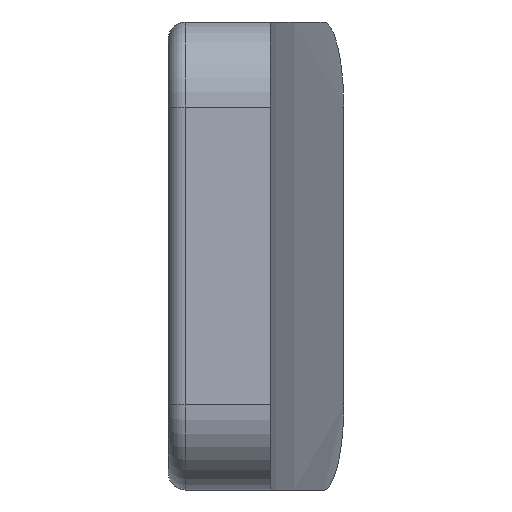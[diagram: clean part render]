
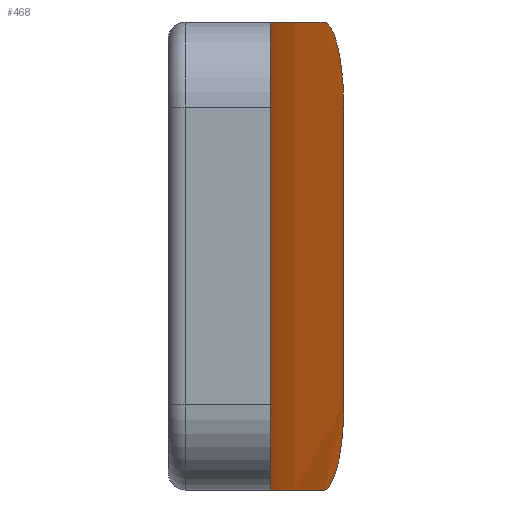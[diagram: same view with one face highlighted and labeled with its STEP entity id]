
A CAD part, front view. The second image highlights one B-rep face of the part: STEP entity #468.
In plain terms, the highlighted cylindrical face has radius 28.8 mm (diameter 57.6 mm), a partial arc.
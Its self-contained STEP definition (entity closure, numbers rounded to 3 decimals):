
#1=DIRECTION('',(0.,0.,-1.));
#2=VECTOR('',#1,3.5);
#3=CARTESIAN_POINT('',(-27.936,76.,-0.15));
#4=LINE('',#3,#2);
#57=CARTESIAN_POINT('',(-27.936,76.,-0.15));
#58=CARTESIAN_POINT('',(-27.936,76.,-0.104));
#59=CARTESIAN_POINT('',(-27.938,75.994,-0.011));
#60=CARTESIAN_POINT('',(-27.945,75.964,0.129));
#61=CARTESIAN_POINT('',(-27.957,75.915,0.262));
#62=CARTESIAN_POINT('',(-27.974,75.848,0.386));
#63=CARTESIAN_POINT('',(-27.994,75.763,0.501));
#64=CARTESIAN_POINT('',(-28.019,75.662,0.604));
#65=CARTESIAN_POINT('',(-28.046,75.547,0.691));
#66=CARTESIAN_POINT('',(-28.075,75.422,0.76));
#67=CARTESIAN_POINT('',(-28.105,75.286,0.812));
#68=CARTESIAN_POINT('',(-28.137,75.144,0.843));
#69=CARTESIAN_POINT('',(-28.158,75.048,0.85));
#70=CARTESIAN_POINT('',(-28.168,75.,0.85));
#80=CARTESIAN_POINT('',(-28.168,75.,-4.65));
#81=CARTESIAN_POINT('',(-28.158,75.048,-4.65));
#82=CARTESIAN_POINT('',(-28.137,75.144,-4.643));
#83=CARTESIAN_POINT('',(-28.105,75.286,-4.612));
#84=CARTESIAN_POINT('',(-28.075,75.422,-4.56));
#85=CARTESIAN_POINT('',(-28.046,75.547,-4.491));
#86=CARTESIAN_POINT('',(-28.019,75.662,-4.404));
#87=CARTESIAN_POINT('',(-27.994,75.763,-4.301));
#88=CARTESIAN_POINT('',(-27.974,75.848,-4.186));
#89=CARTESIAN_POINT('',(-27.957,75.915,-4.062));
#90=CARTESIAN_POINT('',(-27.945,75.964,-3.929));
#91=CARTESIAN_POINT('',(-27.938,75.994,-3.789));
#92=CARTESIAN_POINT('',(-27.936,76.,-3.696));
#93=CARTESIAN_POINT('',(-27.936,76.,-3.65));
#149=CARTESIAN_POINT('',(0.,69.,0.85));
#150=DIRECTION('',(0.,0.,-1.));
#151=DIRECTION('',(-1.,0.,0.));
#152=AXIS2_PLACEMENT_3D('',#149,#150,#151);
#158=DIRECTION('',(0.,0.,1.));
#159=VECTOR('',#158,5.5);
#160=CARTESIAN_POINT('',(-28.8,69.,-4.65));
#161=LINE('',#160,#159);
#252=CARTESIAN_POINT('',(0.,69.,-4.65));
#253=DIRECTION('',(0.,0.,-1.));
#254=DIRECTION('',(-1.,0.,0.));
#255=AXIS2_PLACEMENT_3D('',#252,#253,#254);
#289=CARTESIAN_POINT('',(-28.8,69.,-4.65));
#290=CARTESIAN_POINT('',(-28.8,69.,0.85));
#291=VERTEX_POINT('',#289);
#292=VERTEX_POINT('',#290);
#301=VERTEX_POINT('',#57);
#302=VERTEX_POINT('',#70);
#303=VERTEX_POINT('',#80);
#304=VERTEX_POINT('',#93);
#451=CARTESIAN_POINT('',(0.,69.,-1.9));
#452=DIRECTION('',(0.,0.,-1.));
#453=DIRECTION('',(1.,0.,0.));
#454=AXIS2_PLACEMENT_3D('',#451,#452,#453);
#455=CYLINDRICAL_SURFACE('',#454,28.8);
#456=ORIENTED_EDGE('',*,*,#444,.F.);
#457=ORIENTED_EDGE('',*,*,#348,.T.);
#459=ORIENTED_EDGE('',*,*,#458,.F.);
#461=ORIENTED_EDGE('',*,*,#460,.F.);
#463=ORIENTED_EDGE('',*,*,#462,.T.);
#465=ORIENTED_EDGE('',*,*,#464,.T.);
#466=EDGE_LOOP('',(#456,#457,#459,#461,#463,#465));
#467=FACE_OUTER_BOUND('',#466,.F.);
#468=ADVANCED_FACE('',(#467),#455,.F.);
#71=B_SPLINE_CURVE_WITH_KNOTS('',3,(#57,#58,#59,#60,#61,#62,#63,#64,#65,#66,#67,
#68,#69,#70),.UNSPECIFIED.,.F.,.F.,(4,1,1,1,1,1,1,1,1,1,1,4),(0.,
0.091,0.182,0.273,0.364,
0.455,0.545,0.636,0.727,
0.818,0.909,1.),.UNSPECIFIED.);
#94=B_SPLINE_CURVE_WITH_KNOTS('',3,(#80,#81,#82,#83,#84,#85,#86,#87,#88,#89,#90,
#91,#92,#93),.UNSPECIFIED.,.F.,.F.,(4,1,1,1,1,1,1,1,1,1,1,4),(0.,
0.091,0.182,0.273,0.364,
0.455,0.545,0.636,0.727,
0.818,0.909,1.),.UNSPECIFIED.);
#153=CIRCLE('',#152,28.8);
#256=CIRCLE('',#255,28.8);
#348=EDGE_CURVE('',#301,#304,#4,.T.);
#444=EDGE_CURVE('',#301,#302,#71,.T.);
#458=EDGE_CURVE('',#303,#304,#94,.T.);
#460=EDGE_CURVE('',#291,#303,#256,.T.);
#462=EDGE_CURVE('',#291,#292,#161,.T.);
#464=EDGE_CURVE('',#292,#302,#153,.T.);
